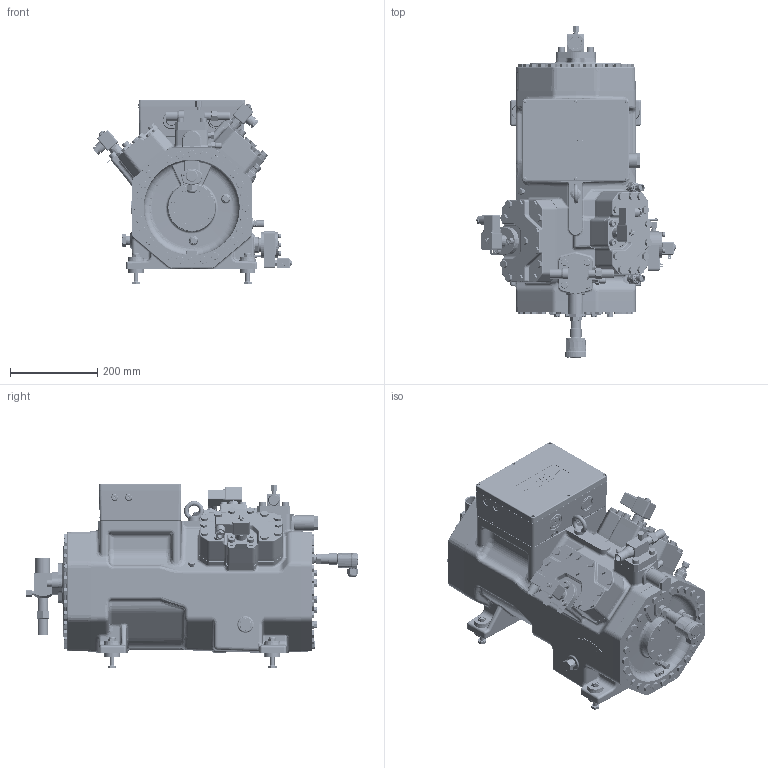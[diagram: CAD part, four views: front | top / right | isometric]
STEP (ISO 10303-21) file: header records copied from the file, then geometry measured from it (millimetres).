
FILE_DESCRIPTION(/* description */ (''),/* implementation_level */ '2;1');
FILE_NAME(/* name */ '4JTE-4FTE-20K-Marine.stp',/* time_stamp */ '2024-10-28T08:15:52+01:00',/* author */ (''),/* organization */ (''),/* preprocessor_version */ 'ST-DEVELOPER v19.4',/* originating_system */ 'SIEMENS PLM Software NX2212.8901',/* authorisation */ '');
FILE_SCHEMA (('AUTOMOTIVE_DESIGN { 1 0 10303 214 3 1 1 1 }'));
Products named in the file (25): PLUG-1-4-18NPTF; ELECTRICAL-TERMINAL-BOX-IP65; DAMPER-ELEMENT-CKHE4-CME4; BLIND-FLANGE-HP-CO2; CRANKCASE-HEATER-200-260V-120W; CKHE4-BODY; BLIND-FLANGE-OVAL-01; HOUSING-COVER-CKH4-FLAT-ROUND; SEALING-SCREW-3-8-24-UNF; SEALING-SCREW-1-2-20-UNF; OIL-PRESS-CUT-OUT-DELTAP-2; BEARING-COVER-CKH5; OIL-LEVEL-MONITORING-OLM-IQ-2; PRESSURE-TRANSDUCER-5PP6-39-ND-01; PT1000; PLUG-1-8-27-NPTF-01; SOLENOID-VALVE-CAPACTIY-REGULA; SOLENOID-VALVE-CAPACTIY-REGULA-01; SHUT-OFF-VALVE-PS100-DN25; SHUT-OFF-VALVE-DN16; PROTECTIVE-CAP-F-PRESS-SAF; 4JTE-HTE-GTE-FTE-DTE-CTE-STD; 4JTEU-4HTEU-4GTEU20-4FTEU20; 4JTE-HTE-GTE-FTE-DTE-CTE-OPT; 4JTE-4HTE-4GTE-4FTE-4DTE-4CTE
Assembly tree (26 placements, depth 3):
  4JTE-4HTE-4GTE-4FTE-4DTE-4CTE
    4JTE-HTE-GTE-FTE-DTE-CTE-OPT
      PROTECTIVE-CAP-F-PRESS-SAF
      SHUT-OFF-VALVE-DN16
      SHUT-OFF-VALVE-PS100-DN25
      SOLENOID-VALVE-CAPACTIY-REGULA-01
      SOLENOID-VALVE-CAPACTIY-REGULA
      PLUG-1-8-27-NPTF-01
      PT1000
      PRESSURE-TRANSDUCER-5PP6-39-ND-01  x2
      OIL-LEVEL-MONITORING-OLM-IQ-2
      BEARING-COVER-CKH5
      OIL-PRESS-CUT-OUT-DELTAP-2
      SEALING-SCREW-1-2-20-UNF
      SEALING-SCREW-3-8-24-UNF
    4JTEU-4HTEU-4GTEU20-4FTEU20
      HOUSING-COVER-CKH4-FLAT-ROUND
      BLIND-FLANGE-OVAL-01
    4JTE-HTE-GTE-FTE-DTE-CTE-STD
      CKHE4-BODY
      CRANKCASE-HEATER-200-260V-120W
      BLIND-FLANGE-HP-CO2
      DAMPER-ELEMENT-CKHE4-CME4
      ELECTRICAL-TERMINAL-BOX-IP65
      PLUG-1-8-27-NPTF-01
      PLUG-1-4-18NPTF
Bounding box: 457.2 x 760.2 x 422.9 mm (x, y, z)
Volume: 45202014.2 mm3; surface area: 1665221.1 mm2
Topology: 31 solids, 66 shells, 8673 faces, 21341 edges, 13272 vertices
Faces by surface type: plane 3241, cylinder 1833, cone 1039, bspline 958, extrusion 777, torus 591, sphere 228, revolution 6
Full cylindrical faces by diameter (mm): 1.5 x4, 1.52 x1, 1.8 x3, 2 x1, 2.5 x1, 3 x1, 3.2 x1, 3.5 x4, 4 x7, 4.5 x1, 4.9 x1, 5 x1, 5.2 x4, 5.795 x2, 6 x6, 6.5 x6, 7 x3, 7.6 x1, 8 x3, 8.5 x16, 8.985 x4, 9 x7, 9.1 x1, 9.342 x1, 9.5 x1, 9.65 x2, 9.8 x2, 9.921 x1, 10 x65, 10.1 x1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
Entity records: 282539 total; most frequent: CARTESIAN_POINT 88383, ORIENTED_EDGE 38728, DIRECTION 34688, EDGE_CURVE 19364, AXIS2_PLACEMENT_3D 13426, VERTEX_POINT 12564, EDGE_LOOP 10028, ADVANCED_FACE 8437
